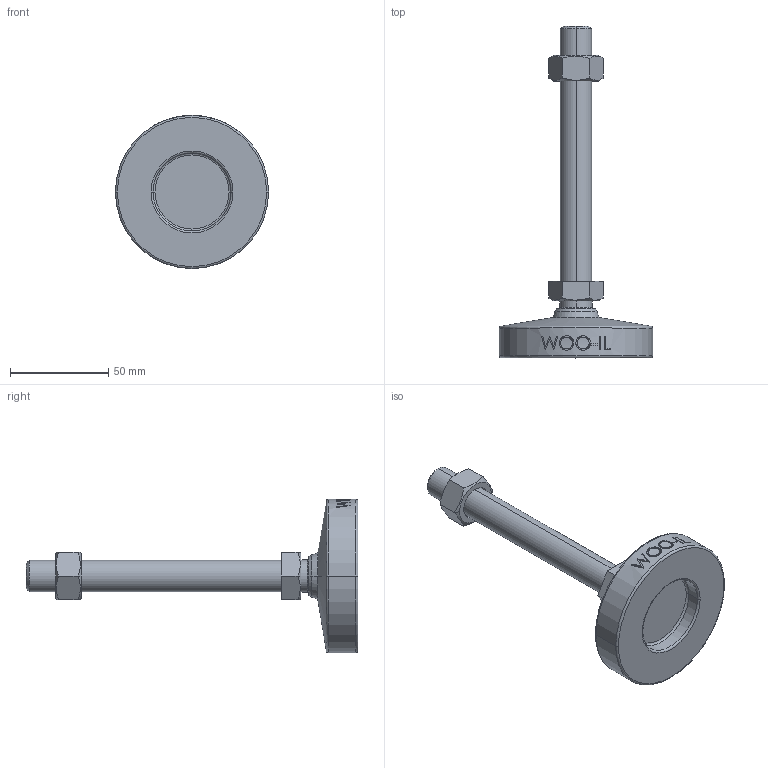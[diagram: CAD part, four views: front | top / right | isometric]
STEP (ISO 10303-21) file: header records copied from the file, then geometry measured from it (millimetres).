
FILE_DESCRIPTION (( 'STEP AP214' ), '1' );
FILE_NAME ('MFN78-M16-130.step', '2021-01-19T06:29:39', ( '' ), ( '' ), 'SwSTEP 2.0', 'SolidWorks 2019', '' );
FILE_SCHEMA (( 'AUTOMOTIVE_DESIGN' ));
Length unit declared in the file: millimetre
Products named in the file (2): MFN78-M16-130
Bounding box: 78 x 169 x 78 mm (x, y, z)
Volume: 113826 mm3; surface area: 24733.8 mm2
Topology: 2 solids, 2 shells, 109 faces, 253 edges, 160 vertices
Faces by surface type: plane 47, cone 18, cylinder 18, bspline 16, torus 8, sphere 2
Entity records: 4621 total; most frequent: CARTESIAN_POINT 2196, ORIENTED_EDGE 506, DIRECTION 461, EDGE_CURVE 253, AXIS2_PLACEMENT_3D 179, VERTEX_POINT 160, EDGE_LOOP 123, FACE_OUTER_BOUND 109
